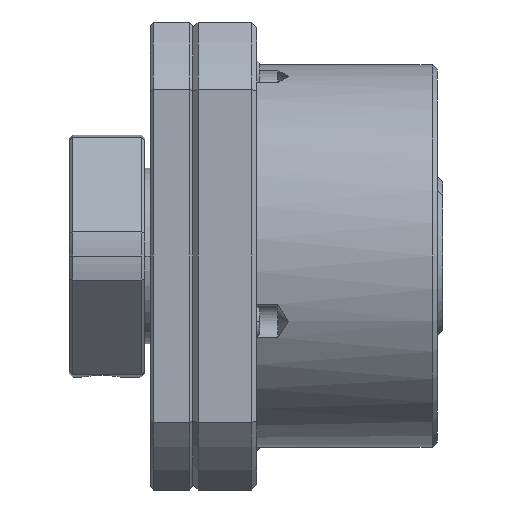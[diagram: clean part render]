
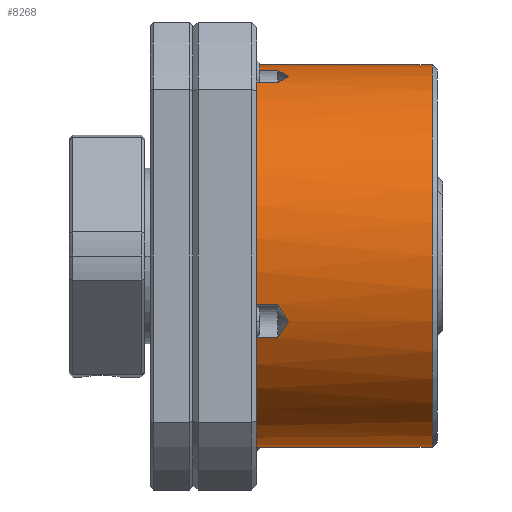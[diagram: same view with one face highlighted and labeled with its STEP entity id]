
A CAD part, front view. The second image highlights one B-rep face of the part: STEP entity #8268.
In plain terms, the highlighted cylindrical face has radius 18 mm (diameter 36 mm), a partial arc.
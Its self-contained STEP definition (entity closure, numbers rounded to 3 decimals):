
#82 = DIRECTION ( 'NONE',  ( -1., 0., 0. ) ) ;
#151 = EDGE_CURVE ( 'NONE', #12116, #12606, #8599, .T. ) ;
#169 = DIRECTION ( 'NONE',  ( 1., 0., 0. ) ) ;
#198 = CARTESIAN_POINT ( 'NONE',  ( 8., -17.413, -4.557 ) ) ;
#230 = VERTEX_POINT ( 'NONE', #11913 ) ;
#332 = EDGE_CURVE ( 'NONE', #1317, #12452, #7254, .T. ) ;
#410 = AXIS2_PLACEMENT_3D ( 'NONE', #10969, #4844, #11972 ) ;
#503 = VECTOR ( 'NONE', #10164, 1000. ) ;
#504 = LINE ( 'NONE', #8120, #10995 ) ;
#513 = EDGE_LOOP ( 'NONE', ( #1154, #2004, #6602, #4313, #6634, #7778, #10769, #2568, #731, #9469, #12159, #3292, #3540, #13084 ) ) ;
#514 = CARTESIAN_POINT ( 'NONE',  ( 8.671, -6.681, 16.723 ) ) ;
#671 = EDGE_CURVE ( 'NONE', #13093, #8163, #8587, .T. ) ;
#731 = ORIENTED_EDGE ( 'NONE', *, *, #11820, .F. ) ;
#821 = VECTOR ( 'NONE', #3993, 1000. ) ;
#1048 = VERTEX_POINT ( 'NONE', #4637 ) ;
#1088 = DIRECTION ( 'NONE',  ( 0., 0., 1. ) ) ;
#1154 = ORIENTED_EDGE ( 'NONE', *, *, #3380, .F. ) ;
#1241 = EDGE_CURVE ( 'NONE', #9130, #1048, #12407, .T. ) ;
#1294 = AXIS2_PLACEMENT_3D ( 'NONE', #6154, #82, #1088 ) ;
#1317 = VERTEX_POINT ( 'NONE', #4337 ) ;
#1858 = DIRECTION ( 'NONE',  ( -1., 0., 0. ) ) ;
#1971 = CARTESIAN_POINT ( 'NONE',  ( 9.006, -16.914, -6.156 ) ) ;
#2002 = CIRCLE ( 'NONE', #410, 18. ) ;
#2004 = ORIENTED_EDGE ( 'NONE', *, *, #4517, .T. ) ;
#2199 = CARTESIAN_POINT ( 'NONE',  ( 9.006, -16.914, -6.156 ) ) ;
#2239 = CARTESIAN_POINT ( 'NONE',  ( -94.469, 0., -18. ) ) ;
#2393 = VERTEX_POINT ( 'NONE', #10343 ) ;
#2568 = ORIENTED_EDGE ( 'NONE', *, *, #151, .T. ) ;
#2571 = CARTESIAN_POINT ( 'NONE',  ( 8., -7.702, 16.269 ) ) ;
#2769 = B_SPLINE_CURVE_WITH_KNOTS ( 'NONE', 3,
 ( #1971, #8076, #11166, #5046 ),
 .UNSPECIFIED., .F., .F.,
 ( 4, 4 ),
 ( 0., 0.002 ),
 .UNSPECIFIED. ) ;
#2870 = CARTESIAN_POINT ( 'NONE',  ( 22.5, 0., 18. ) ) ;
#3188 = EDGE_CURVE ( 'NONE', #7185, #9130, #3794, .T. ) ;
#3234 = DIRECTION ( 'NONE',  ( -1., 0., 0. ) ) ;
#3292 = ORIENTED_EDGE ( 'NONE', *, *, #9845, .T. ) ;
#3380 = EDGE_CURVE ( 'NONE', #2393, #6738, #6979, .T. ) ;
#3540 = ORIENTED_EDGE ( 'NONE', *, *, #8783, .T. ) ;
#3596 = CARTESIAN_POINT ( 'NONE',  ( 6., 0., 0. ) ) ;
#3794 = LINE ( 'NONE', #9353, #11620 ) ;
#3993 = DIRECTION ( 'NONE',  ( -1., 0., 0. ) ) ;
#4075 = DIRECTION ( 'NONE',  ( -1., 0., 0. ) ) ;
#4313 = ORIENTED_EDGE ( 'NONE', *, *, #6299, .F. ) ;
#4337 = CARTESIAN_POINT ( 'NONE',  ( 8., -4.557, 17.413 ) ) ;
#4453 = VECTOR ( 'NONE', #12992, 1000. ) ;
#4517 = EDGE_CURVE ( 'NONE', #2393, #13093, #2002, .T. ) ;
#4610 = DIRECTION ( 'NONE',  ( 0., 0., 1. ) ) ;
#4637 = CARTESIAN_POINT ( 'NONE',  ( 9.006, -16.914, -6.156 ) ) ;
#4798 = CARTESIAN_POINT ( 'NONE',  ( 8., -17.413, -4.557 ) ) ;
#4844 = DIRECTION ( 'NONE',  ( -1., 0., 0. ) ) ;
#4860 = CIRCLE ( 'NONE', #10209, 18. ) ;
#5006 = CIRCLE ( 'NONE', #7217, 18. ) ;
#5046 = CARTESIAN_POINT ( 'NONE',  ( 8., -16.269, -7.702 ) ) ;
#5197 = CARTESIAN_POINT ( 'NONE',  ( 6., 0., 18. ) ) ;
#5227 = CARTESIAN_POINT ( 'NONE',  ( 8.335, -17.272, -5.097 ) ) ;
#5396 = CARTESIAN_POINT ( 'NONE',  ( 6., 0., 0. ) ) ;
#5923 = EDGE_CURVE ( 'NONE', #6738, #6562, #5960, .T. ) ;
#5960 = CIRCLE ( 'NONE', #12062, 18. ) ;
#6154 = CARTESIAN_POINT ( 'NONE',  ( -94.469, 0., 0. ) ) ;
#6161 = CARTESIAN_POINT ( 'NONE',  ( 9.006, -6.156, 16.914 ) ) ;
#6299 = EDGE_CURVE ( 'NONE', #230, #8163, #5006, .T. ) ;
#6428 = DIRECTION ( 'NONE',  ( 0., 0., 1. ) ) ;
#6562 = VERTEX_POINT ( 'NONE', #7762 ) ;
#6602 = ORIENTED_EDGE ( 'NONE', *, *, #671, .T. ) ;
#6634 = ORIENTED_EDGE ( 'NONE', *, *, #8643, .T. ) ;
#6738 = VERTEX_POINT ( 'NONE', #13129 ) ;
#6979 = LINE ( 'NONE', #2239, #9377 ) ;
#7033 = CARTESIAN_POINT ( 'NONE',  ( 4., -7.702, 16.269 ) ) ;
#7140 = CARTESIAN_POINT ( 'NONE',  ( -94.469, 0., 18. ) ) ;
#7185 = VERTEX_POINT ( 'NONE', #7692 ) ;
#7217 = AXIS2_PLACEMENT_3D ( 'NONE', #3596, #10722, #4610 ) ;
#7254 = B_SPLINE_CURVE_WITH_KNOTS ( 'NONE', 3,
 ( #12256, #12206, #10208, #6161 ),
 .UNSPECIFIED., .F., .F.,
 ( 4, 4 ),
 ( 0.002, 0.004 ),
 .UNSPECIFIED. ) ;
#7692 = CARTESIAN_POINT ( 'NONE',  ( 6., -17.413, -4.557 ) ) ;
#7762 = CARTESIAN_POINT ( 'NONE',  ( 6., -16.269, -7.702 ) ) ;
#7778 = ORIENTED_EDGE ( 'NONE', *, *, #332, .T. ) ;
#7818 = CARTESIAN_POINT ( 'NONE',  ( 8., -7.702, 16.269 ) ) ;
#7949 = CARTESIAN_POINT ( 'NONE',  ( 6., 0., 0. ) ) ;
#8076 = CARTESIAN_POINT ( 'NONE',  ( 8.671, -16.723, -6.681 ) ) ;
#8120 = CARTESIAN_POINT ( 'NONE',  ( 4., -16.269, -7.702 ) ) ;
#8163 = VERTEX_POINT ( 'NONE', #5197 ) ;
#8268 = ADVANCED_FACE ( 'NONE', ( #11342 ), #11010, .T. ) ;
#8299 = CARTESIAN_POINT ( 'NONE',  ( 8.671, -17.105, -5.632 ) ) ;
#8438 = CARTESIAN_POINT ( 'NONE',  ( 9.006, -6.156, 16.914 ) ) ;
#8587 = LINE ( 'NONE', #7140, #503 ) ;
#8599 = LINE ( 'NONE', #7033, #821 ) ;
#8643 = EDGE_CURVE ( 'NONE', #230, #1317, #9873, .T. ) ;
#8661 = CARTESIAN_POINT ( 'NONE',  ( 8.335, -7.198, 16.508 ) ) ;
#8783 = EDGE_CURVE ( 'NONE', #9137, #6562, #504, .T. ) ;
#8959 = DIRECTION ( 'NONE',  ( 0., 0., 1. ) ) ;
#9130 = VERTEX_POINT ( 'NONE', #4798 ) ;
#9137 = VERTEX_POINT ( 'NONE', #9886 ) ;
#9353 = CARTESIAN_POINT ( 'NONE',  ( 4., -17.413, -4.557 ) ) ;
#9377 = VECTOR ( 'NONE', #3234, 1000. ) ;
#9469 = ORIENTED_EDGE ( 'NONE', *, *, #3188, .T. ) ;
#9584 = EDGE_CURVE ( 'NONE', #12452, #12116, #11286, .T. ) ;
#9845 = EDGE_CURVE ( 'NONE', #1048, #9137, #2769, .T. ) ;
#9873 = LINE ( 'NONE', #11950, #4453 ) ;
#9886 = CARTESIAN_POINT ( 'NONE',  ( 8., -16.269, -7.702 ) ) ;
#10164 = DIRECTION ( 'NONE',  ( -1., 0., 0. ) ) ;
#10208 = CARTESIAN_POINT ( 'NONE',  ( 8.671, -5.632, 17.105 ) ) ;
#10209 = AXIS2_PLACEMENT_3D ( 'NONE', #5396, #12523, #6428 ) ;
#10343 = CARTESIAN_POINT ( 'NONE',  ( 22.5, 0., -18. ) ) ;
#10721 = CARTESIAN_POINT ( 'NONE',  ( 6., -7.702, 16.269 ) ) ;
#10722 = DIRECTION ( 'NONE',  ( -1., 0., 0. ) ) ;
#10769 = ORIENTED_EDGE ( 'NONE', *, *, #9584, .T. ) ;
#10969 = CARTESIAN_POINT ( 'NONE',  ( 22.5, 0., 0. ) ) ;
#10995 = VECTOR ( 'NONE', #4075, 1000. ) ;
#11010 = CYLINDRICAL_SURFACE ( 'NONE', #1294, 18. ) ;
#11166 = CARTESIAN_POINT ( 'NONE',  ( 8.335, -16.508, -7.198 ) ) ;
#11286 = B_SPLINE_CURVE_WITH_KNOTS ( 'NONE', 3,
 ( #12733, #514, #8661, #2571 ),
 .UNSPECIFIED., .F., .F.,
 ( 4, 4 ),
 ( 0., 0.002 ),
 .UNSPECIFIED. ) ;
#11342 = FACE_OUTER_BOUND ( 'NONE', #513, .T. ) ;
#11620 = VECTOR ( 'NONE', #169, 1000. ) ;
#11820 = EDGE_CURVE ( 'NONE', #7185, #12606, #4860, .T. ) ;
#11913 = CARTESIAN_POINT ( 'NONE',  ( 6., -4.557, 17.413 ) ) ;
#11950 = CARTESIAN_POINT ( 'NONE',  ( 4., -4.557, 17.413 ) ) ;
#11972 = DIRECTION ( 'NONE',  ( 0., 0., 1. ) ) ;
#12062 = AXIS2_PLACEMENT_3D ( 'NONE', #7949, #1858, #8959 ) ;
#12116 = VERTEX_POINT ( 'NONE', #7818 ) ;
#12159 = ORIENTED_EDGE ( 'NONE', *, *, #1241, .T. ) ;
#12206 = CARTESIAN_POINT ( 'NONE',  ( 8.335, -5.097, 17.272 ) ) ;
#12256 = CARTESIAN_POINT ( 'NONE',  ( 8., -4.557, 17.413 ) ) ;
#12407 = B_SPLINE_CURVE_WITH_KNOTS ( 'NONE', 3,
 ( #198, #5227, #8299, #2199 ),
 .UNSPECIFIED., .F., .F.,
 ( 4, 4 ),
 ( 0.002, 0.004 ),
 .UNSPECIFIED. ) ;
#12452 = VERTEX_POINT ( 'NONE', #8438 ) ;
#12523 = DIRECTION ( 'NONE',  ( -1., 0., 0. ) ) ;
#12606 = VERTEX_POINT ( 'NONE', #10721 ) ;
#12733 = CARTESIAN_POINT ( 'NONE',  ( 9.006, -6.156, 16.914 ) ) ;
#12992 = DIRECTION ( 'NONE',  ( 1., 0., 0. ) ) ;
#13084 = ORIENTED_EDGE ( 'NONE', *, *, #5923, .F. ) ;
#13093 = VERTEX_POINT ( 'NONE', #2870 ) ;
#13129 = CARTESIAN_POINT ( 'NONE',  ( 6., 0., -18. ) ) ;
